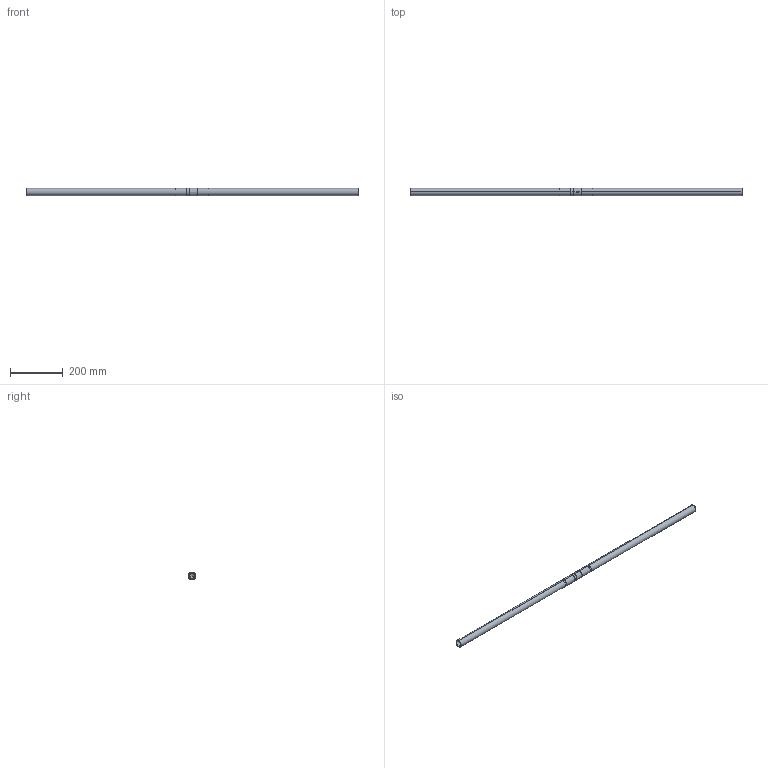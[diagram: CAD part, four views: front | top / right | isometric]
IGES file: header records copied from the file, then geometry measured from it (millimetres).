
Start section: SolidWorks IGES file using analytic representation for surfaces
Global section: file name: \\SERVER3\Design\_New Design Drive Folder List\_Design Vault\AAI\Modular Round Tube Connectors\Solidworks Models\Demonstrations\25. Assemblies\Modular Connectors\2. Coaxial Tube to Tube\Coaxial Tube to Tube Solid Models\Pinned Joint Connection.IGS; native system: SolidWorks 2013; preprocessor: SolidWorks 2013; author: tbraun; date: 130819.131416; units: inch
Bounding box: 1257.3 x 28.57 x 28.57 mm (x, y, z)
Surface area: 225448.2 mm2 (no closed solid volume)
Topology: 0 solids, 0 shells, 55 faces, 1376 edges, 1374 vertices
Faces by surface type: revolution 38, bspline 17
